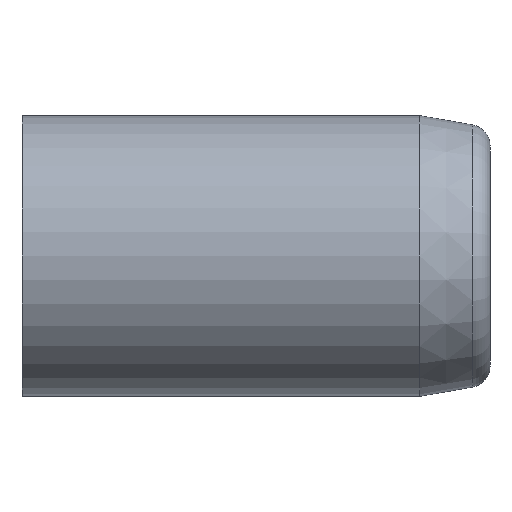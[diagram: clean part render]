
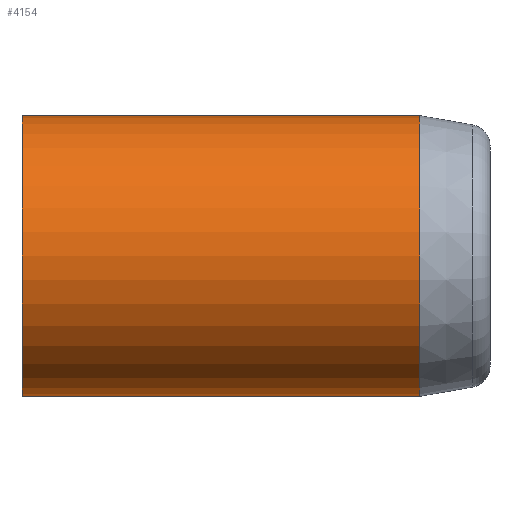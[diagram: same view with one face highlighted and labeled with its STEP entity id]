
A CAD part, left-side view. The second image highlights one B-rep face of the part: STEP entity #4154.
In plain terms, the highlighted cylindrical face has radius 6 mm (diameter 12 mm), a partial arc.
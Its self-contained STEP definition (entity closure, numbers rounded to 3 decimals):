
#203 = AXIS2_PLACEMENT_3D ( 'NONE', #902, #876, #903 ) ;
#224 = CIRCLE ( 'NONE', #203, 6. ) ;
#267 = CIRCLE ( 'NONE', #268, 6. ) ;
#268 = AXIS2_PLACEMENT_3D ( 'NONE', #1064, #1057, #1072 ) ;
#876 = DIRECTION ( 'NONE',  ( 0., 1., 0. ) ) ;
#902 = CARTESIAN_POINT ( 'NONE',  ( 0., -7., 0. ) ) ;
#903 = DIRECTION ( 'NONE',  ( 0., 0., -1. ) ) ;
#957 = CARTESIAN_POINT ( 'NONE',  ( 0., -7., 6. ) ) ;
#1016 = CARTESIAN_POINT ( 'NONE',  ( 0., -7., -6. ) ) ;
#1020 = CARTESIAN_POINT ( 'NONE',  ( 0., 10., 6. ) ) ;
#1031 = CARTESIAN_POINT ( 'NONE',  ( 0., 10., -6. ) ) ;
#1057 = DIRECTION ( 'NONE',  ( 0., -1., 0. ) ) ;
#1064 = CARTESIAN_POINT ( 'NONE',  ( 0., 10., 0. ) ) ;
#1072 = DIRECTION ( 'NONE',  ( 0., 0., 1. ) ) ;
#1302 = VECTOR ( 'NONE', #2752, 1000. ) ;
#1462 = VECTOR ( 'NONE', #2992, 1000. ) ;
#1811 = CYLINDRICAL_SURFACE ( 'NONE', #3270, 6. ) ;
#1812 = DIRECTION ( 'NONE',  ( 0., 1., 0. ) ) ;
#1817 = CARTESIAN_POINT ( 'NONE',  ( 0., -15., 0. ) ) ;
#1818 = DIRECTION ( 'NONE',  ( 0., 0., 1. ) ) ;
#1827 = FACE_OUTER_BOUND ( 'NONE', #2671, .T. ) ;
#2671 = EDGE_LOOP ( 'NONE', ( #3655, #3690, #3704, #3594 ) ) ;
#2747 = CARTESIAN_POINT ( 'NONE',  ( 0., -15., -6. ) ) ;
#2752 = DIRECTION ( 'NONE',  ( 0., 1., 0. ) ) ;
#2855 = LINE ( 'NONE', #2747, #1302 ) ;
#2908 = EDGE_CURVE ( 'NONE', #3602, #3621, #3035, .T. ) ;
#2951 = EDGE_CURVE ( 'NONE', #3642, #3639, #2855, .T. ) ;
#2981 = EDGE_CURVE ( 'NONE', #3642, #3602, #224, .T. ) ;
#2992 = DIRECTION ( 'NONE',  ( 0., 1., 0. ) ) ;
#3035 = LINE ( 'NONE', #3036, #1462 ) ;
#3036 = CARTESIAN_POINT ( 'NONE',  ( 0., -15., 6. ) ) ;
#3270 = AXIS2_PLACEMENT_3D ( 'NONE', #1817, #1812, #1818 ) ;
#3594 = ORIENTED_EDGE ( 'NONE', *, *, #3759, .T. ) ;
#3602 = VERTEX_POINT ( 'NONE', #957 ) ;
#3621 = VERTEX_POINT ( 'NONE', #1020 ) ;
#3639 = VERTEX_POINT ( 'NONE', #1031 ) ;
#3642 = VERTEX_POINT ( 'NONE', #1016 ) ;
#3655 = ORIENTED_EDGE ( 'NONE', *, *, #2951, .F. ) ;
#3690 = ORIENTED_EDGE ( 'NONE', *, *, #2981, .T. ) ;
#3704 = ORIENTED_EDGE ( 'NONE', *, *, #2908, .T. ) ;
#3759 = EDGE_CURVE ( 'NONE', #3621, #3639, #267, .T. ) ;
#4154 = ADVANCED_FACE ( 'NONE', ( #1827 ), #1811, .T. ) ;
